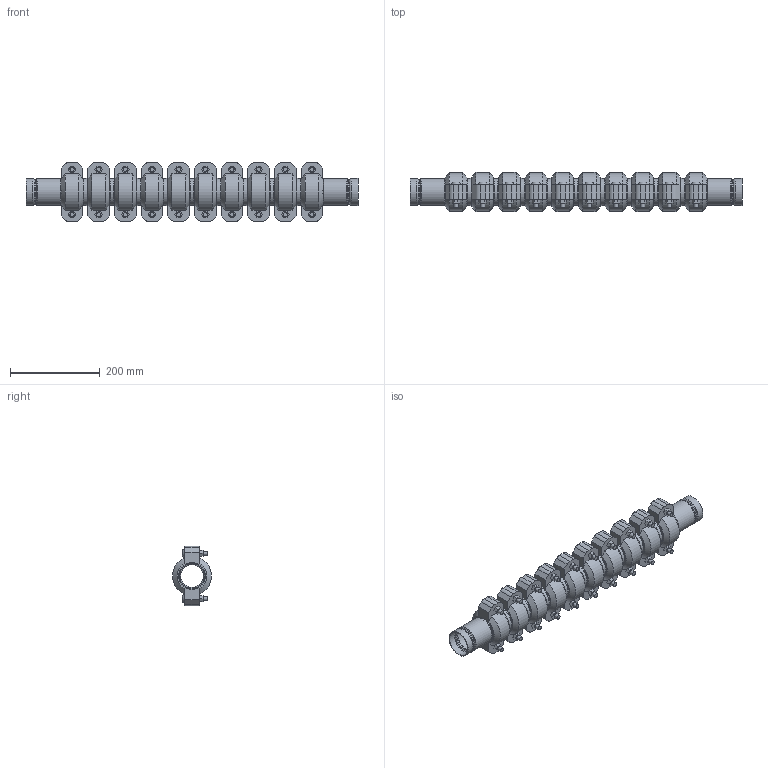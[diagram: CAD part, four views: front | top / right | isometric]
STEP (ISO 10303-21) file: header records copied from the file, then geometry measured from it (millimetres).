
FILE_DESCRIPTION(/* description */ ('VIC STRENGTHIN 100 EXPANSION JOINT 10 COUPLINGS NEUTRAL STYLE E155 (ST1)','CAx-IF Rec.Pracs.---Representation and Presentation of Product Manufacturing Information (PMI)---4.0---2014-10-13'),/* implementation_level */ '2;1');
FILE_NAME(/* name */ 'C:\Users\Vjadhav\AppData\Roaming\Autodesk\ApplicationPlugins\Victaulic.Temp\A165\Victaulic_SS-StrengThin 100_Expansion Joint_Neutral_10 Couplings_Style E155 (ST1)_10 Coup_Neut_2 (50).stp',/* time_stamp */ '2021-07-20T17:39:40+05:00',/* author */ ('kkamble'),/* organization */ ('Victaulic'),/* preprocessor_version */ 'ST-DEVELOPER v17.2',/* originating_system */ 'Autodesk Inventor 2019',/* authorisation */ '');
FILE_SCHEMA (('AP242_MANAGED_MODEL_BASED_3D_ENGINEERING_MIM_LF { 1 0 10303 442 1 1 4 }'));
Length unit declared in the file: inch
Products named in the file (4): E155-02.0; E494G-02.0; Nipple-02.0; 075-02.0
Assembly tree (21 placements, depth 2):
  E155-02.0
    E494G-02.0  x2
    Nipple-02.0  x9
    075-02.0  x10
Bounding box: 741.43 x 87.12 x 132.59 mm (x, y, z)
Volume: 2377396.6 mm3; surface area: 680819.7 mm2
Topology: 21 solids, 41 shells, 746 faces, 1822 edges, 1282 vertices
Faces by surface type: plane 426, cylinder 224, cone 44, torus 32, bspline 20
Full cylindrical faces by diameter (mm): 9.525 x40, 11.43 x20, 51.13 x2, 52.502 x9, 53.95 x2, 53.975 x10, 54.331 x2, 57.125 x6, 57.15 x20, 60.325 x53
Entity records: 3830 total; most frequent: DIRECTION 685, CARTESIAN_POINT 667, ORIENTED_EDGE 548, AXIS2_PLACEMENT_3D 293, EDGE_CURVE 274, VERTEX_POINT 197, CIRCLE 167, EDGE_LOOP 129
